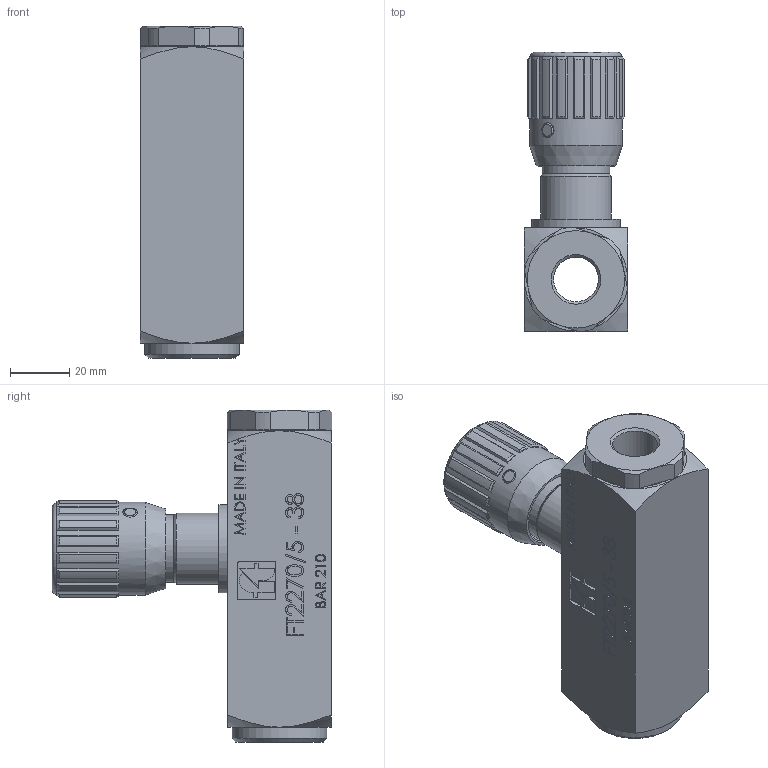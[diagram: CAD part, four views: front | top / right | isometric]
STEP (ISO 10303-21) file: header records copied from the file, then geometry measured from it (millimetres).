
FILE_DESCRIPTION (( 'STEP AP214' ), '1' );
FILE_NAME ('FT2270_5-38.STEP', '2015-03-31T15:30:06', ( 'cperuzzotti' ), ( 'Hewlett-Packard Company' ), 'SwSTEP 2.0', 'SolidWorks 2014', '' );
FILE_SCHEMA (( 'AUTOMOTIVE_DESIGN' ));
Length unit declared in the file: millimetre
Products named in the file (1): FT2270_5-38
Bounding box: 35 x 94.72 x 112.5 mm (x, y, z)
Surface area: 28906.2 mm2 (no closed solid volume)
Topology: 0 solids, 17 shells, 615 faces, 2072 edges, 1420 vertices
Faces by surface type: plane 392, bspline 99, cylinder 67, cone 56, torus 1
Full cylindrical faces by diameter (mm): 2.587 x1, 5 x1, 15.2 x1, 15.6 x1, 22.4 x1, 22.9 x1, 24 x1, 30 x1, 31 x1, 31.5 x1, 32 x1, 33 x1
Entity records: 35452 total; most frequent: CARTESIAN_POINT 11878, ORIENTED_EDGE 3394, DIRECTION 2988, EDGE_CURVE 2046, LINE 1478, VECTOR 1478, VERTEX_POINT 1415, AXIS2_PLACEMENT_3D 755
